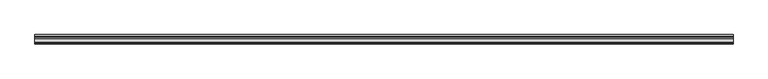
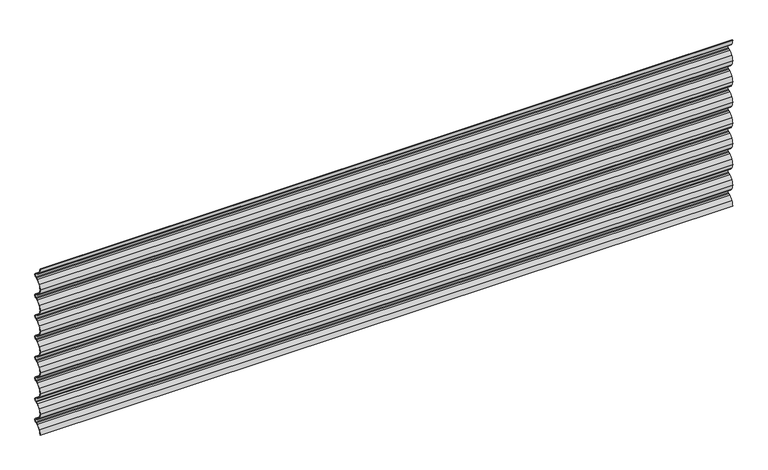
"""IFC4 building model written with IfcOpenShell, lengths in millimetres: plate geometry, Regolare Horizontal 712 : Regolare Horizontal 712."""

from ifc_helpers import new_model, si_unit, point, frame, frame_2d, origin, place, context, project, spatial, polyline, circle_curve, trimmed, segment, composite_curve, outline, extrude, source, transform, mapped, element, save


def plate_eb89862b(model_context):
    return source(origin(), model_context, "Body", "SweptSolid", [
        extrude(outline(composite_curve([segment(trimmed(circle_curve(frame_2d((38.4503244, 0.0)), 37.4503244), [point((6.5021495, 19.5407501))], [point((1.0, 0.0))], True, "CARTESIAN"), True, "CONTINUOUS"), segment(polyline([(1.0, 0.0), (0.0, 0.0)]), True, "CONTINUOUS"), segment(trimmed(circle_curve(frame_2d((38.4503244, 0.0)), 38.4503244), [point((0.0, 0.0))], [point((5.6490681, 20.062528))], False, "CARTESIAN"), True, "CONTINUOUS"), segment(trimmed(circle_curve(frame_2d((32.6206681, 3.5656452)), 31.6166783), [point((5.6490681, 20.062528))], [point((20.878867, 32.9211295))], False, "CARTESIAN"), True, "CONTINUOUS"), segment(polyline([(20.878867, 32.9211295), (28.0423924, 35.7903512), (31.4771017, 37.4367049)]), True, "CONTINUOUS"), segment(trimmed(circle_curve(frame_2d((28.0791236, 44.5257445)), 7.8613445), [point((31.4771017, 37.4367049))], [point((35.9404682, 44.5257445))], True, "CARTESIAN"), True, "CONTINUOUS"), segment(trimmed(circle_curve(frame_2d((28.0791236, 44.5257445)), 7.8613445), [point((35.9404682, 44.5257445))], [point((31.4771017, 51.6147842))], True, "CARTESIAN"), True, "CONTINUOUS"), segment(polyline([(31.4771017, 51.6147842), (28.0423924, 53.2611379), (20.878867, 56.1303596)]), True, "CONTINUOUS"), segment(trimmed(circle_curve(frame_2d((32.6206681, 85.4858438)), 31.6166783), [point((20.878867, 56.1303596))], [point((5.6490681, 68.9889611))], False, "CARTESIAN"), True, "CONTINUOUS"), segment(trimmed(circle_curve(frame_2d((38.4503244, 89.0514891)), 38.4503244), [point((5.6490681, 68.9889611))], [point((0.0, 89.0514891))], False, "CARTESIAN"), True, "CONTINUOUS"), segment(trimmed(circle_curve(frame_2d((38.4503244, 89.0514891)), 38.4503244), [point((0.0, 89.0514891))], [point((5.6490681, 109.1140171))], False, "CARTESIAN"), True, "CONTINUOUS"), segment(trimmed(circle_curve(frame_2d((32.6206681, 92.6171343)), 31.6166783), [point((5.6490681, 109.1140171))], [point((20.878867, 121.9726185))], False, "CARTESIAN"), True, "CONTINUOUS"), segment(polyline([(20.878867, 121.9726185), (28.0423924, 124.8418403), (31.4771017, 126.488194)]), True, "CONTINUOUS"), segment(trimmed(circle_curve(frame_2d((28.0791236, 133.5772336)), 7.8613445), [point((31.4771017, 126.488194))], [point((31.4771017, 140.6662733))], True, "CARTESIAN"), True, "CONTINUOUS"), segment(polyline([(31.4771017, 140.6662733), (28.0423924, 142.312627), (20.878867, 145.1818487)]), True, "CONTINUOUS"), segment(trimmed(circle_curve(frame_2d((32.6206681, 174.5373329)), 31.6166783), [point((20.878867, 145.1818487))], [point((5.6490681, 158.0404502))], False, "CARTESIAN"), True, "CONTINUOUS"), segment(trimmed(circle_curve(frame_2d((38.4503244, 178.1029782)), 38.4503244), [point((5.6490681, 158.0404502))], [point((0.0, 178.1029782))], False, "CARTESIAN"), True, "CONTINUOUS"), segment(trimmed(circle_curve(frame_2d((38.4503244, 178.1029782)), 38.4503244), [point((0.0, 178.1029782))], [point((5.6490681, 198.1655062))], False, "CARTESIAN"), True, "CONTINUOUS"), segment(trimmed(circle_curve(frame_2d((32.6206681, 181.6686234)), 31.6166783), [point((5.6490681, 198.1655062))], [point((20.878867, 211.0241076))], False, "CARTESIAN"), True, "CONTINUOUS"), segment(polyline([(20.878867, 211.0241076), (28.0423924, 213.8933293), (31.4771017, 215.5396831)]), True, "CONTINUOUS"), segment(trimmed(circle_curve(frame_2d((28.0791236, 222.6287227)), 7.8613445), [point((31.4771017, 215.5396831))], [point((31.4771017, 229.7177623))], True, "CARTESIAN"), True, "CONTINUOUS"), segment(polyline([(31.4771017, 229.7177623), (28.0423924, 231.3641161), (20.878867, 234.2333378)]), True, "CONTINUOUS"), segment(trimmed(circle_curve(frame_2d((32.6206681, 263.588822)), 31.6166783), [point((20.878867, 234.2333378))], [point((5.6490681, 247.0919392))], False, "CARTESIAN"), True, "CONTINUOUS"), segment(trimmed(circle_curve(frame_2d((38.4503244, 267.1544672)), 38.4503244), [point((5.6490681, 247.0919392))], [point((0.0, 267.1544672))], False, "CARTESIAN"), True, "CONTINUOUS"), segment(trimmed(circle_curve(frame_2d((38.4503244, 267.1544672)), 38.4503244), [point((0.0, 267.1544672))], [point((5.6490681, 287.2169952))], False, "CARTESIAN"), True, "CONTINUOUS"), segment(trimmed(circle_curve(frame_2d((32.6206681, 270.7201125)), 31.6166783), [point((5.6490681, 287.2169952))], [point((20.878867, 300.0755967))], False, "CARTESIAN"), True, "CONTINUOUS"), segment(polyline([(20.878867, 300.0755967), (28.0423924, 302.9448184), (31.4771017, 304.5911721)]), True, "CONTINUOUS"), segment(trimmed(circle_curve(frame_2d((28.0791236, 311.6802118)), 7.8613445), [point((31.4771017, 304.5911721))], [point((31.4771017, 318.7692514))], True, "CARTESIAN"), True, "CONTINUOUS"), segment(polyline([(31.4771017, 318.7692514), (28.0423924, 320.4156051), (20.878867, 323.2848269)]), True, "CONTINUOUS"), segment(trimmed(circle_curve(frame_2d((32.6206681, 352.6403111)), 31.6166783), [point((20.878867, 323.2848269))], [point((5.6490681, 336.1434283))], False, "CARTESIAN"), True, "CONTINUOUS"), segment(trimmed(circle_curve(frame_2d((38.4503244, 356.2059563)), 38.4503244), [point((5.6490681, 336.1434283))], [point((0.0, 356.2059563))], False, "CARTESIAN"), True, "CONTINUOUS"), segment(trimmed(circle_curve(frame_2d((38.4503244, 356.2059563)), 38.4503244), [point((0.0, 356.2059563))], [point((5.6490681, 376.2684843))], False, "CARTESIAN"), True, "CONTINUOUS"), segment(trimmed(circle_curve(frame_2d((32.6206681, 359.7716016)), 31.6166783), [point((5.6490681, 376.2684843))], [point((20.878867, 389.1270858))], False, "CARTESIAN"), True, "CONTINUOUS"), segment(polyline([(20.878867, 389.1270858), (28.0423924, 391.9963075), (31.4771017, 393.6426612)]), True, "CONTINUOUS"), segment(trimmed(circle_curve(frame_2d((28.0791236, 400.7317009)), 7.8613445), [point((31.4771017, 393.6426612))], [point((31.4771017, 407.8207405))], True, "CARTESIAN"), True, "CONTINUOUS"), segment(polyline([(31.4771017, 407.8207405), (28.0423924, 409.4670942), (20.878867, 412.3363159)]), True, "CONTINUOUS"), segment(trimmed(circle_curve(frame_2d((32.6206681, 441.6918002)), 31.6166783), [point((20.878867, 412.3363159))], [point((5.6490681, 425.1949174))], False, "CARTESIAN"), True, "CONTINUOUS"), segment(trimmed(circle_curve(frame_2d((38.4503244, 445.2574454)), 38.4503244), [point((5.6490681, 425.1949174))], [point((0.0, 445.2574454))], False, "CARTESIAN"), True, "CONTINUOUS"), segment(trimmed(circle_curve(frame_2d((38.4503244, 445.2574454)), 38.4503244), [point((0.0, 445.2574454))], [point((5.6490681, 465.3199734))], False, "CARTESIAN"), True, "CONTINUOUS"), segment(trimmed(circle_curve(frame_2d((32.6206681, 448.8230907)), 31.6166783), [point((5.6490681, 465.3199734))], [point((20.878867, 478.1785749))], False, "CARTESIAN"), True, "CONTINUOUS"), segment(polyline([(20.878867, 478.1785749), (28.0423924, 481.0477966), (31.4771017, 482.6941503)]), True, "CONTINUOUS"), segment(trimmed(circle_curve(frame_2d((28.0791236, 489.7831899)), 7.8613445), [point((31.4771017, 482.6941503))], [point((31.4771017, 496.8722296))], True, "CARTESIAN"), True, "CONTINUOUS"), segment(polyline([(31.4771017, 496.8722296), (28.0423924, 498.5185833), (20.878867, 501.387805)]), True, "CONTINUOUS"), segment(trimmed(circle_curve(frame_2d((32.6206681, 530.7432892)), 31.6166783), [point((20.878867, 501.387805))], [point((5.6490681, 514.2464065))], False, "CARTESIAN"), True, "CONTINUOUS"), segment(trimmed(circle_curve(frame_2d((38.4503244, 534.3089345)), 38.4503244), [point((5.6490681, 514.2464065))], [point((0.0, 534.3089345))], False, "CARTESIAN"), True, "CONTINUOUS"), segment(trimmed(circle_curve(frame_2d((38.4503244, 534.3089345)), 38.4503244), [point((0.0, 534.3089345))], [point((5.6490681, 554.3714625))], False, "CARTESIAN"), True, "CONTINUOUS"), segment(trimmed(circle_curve(frame_2d((32.6206681, 537.8745797)), 31.6166783), [point((5.6490681, 554.3714625))], [point((20.878867, 567.230064))], False, "CARTESIAN"), True, "CONTINUOUS"), segment(polyline([(20.878867, 567.230064), (28.0423924, 570.0992857), (31.4771017, 571.7456394)]), True, "CONTINUOUS"), segment(trimmed(circle_curve(frame_2d((28.0791236, 578.834679)), 7.8613445), [point((31.4771017, 571.7456394))], [point((31.4771017, 585.9237187))], True, "CARTESIAN"), True, "CONTINUOUS"), segment(polyline([(31.4771017, 585.9237187), (28.0423924, 587.5700724), (20.878867, 590.4392941)]), True, "CONTINUOUS"), segment(trimmed(circle_curve(frame_2d((32.6206681, 619.7947783)), 31.6166783), [point((20.878867, 590.4392941))], [point((5.6490681, 603.2978956))], False, "CARTESIAN"), True, "CONTINUOUS"), segment(trimmed(circle_curve(frame_2d((38.4503244, 623.3604236)), 38.4503244), [point((5.6490681, 603.2978956))], [point((0.0, 623.3604236))], False, "CARTESIAN"), True, "CONTINUOUS"), segment(trimmed(circle_curve(frame_2d((38.4503244, 623.3604236)), 38.4503244), [point((0.0, 623.3604236))], [point((5.6490681, 643.4229516))], False, "CARTESIAN"), True, "CONTINUOUS"), segment(trimmed(circle_curve(frame_2d((32.6206681, 626.9260688)), 31.6166783), [point((5.6490681, 643.4229516))], [point((20.878867, 656.281553))], False, "CARTESIAN"), True, "CONTINUOUS"), segment(polyline([(20.878867, 656.281553), (28.0423924, 659.1507748), (31.4771017, 660.7971285)]), True, "CONTINUOUS"), segment(trimmed(circle_curve(frame_2d((28.0791236, 667.8861681)), 7.8613445), [point((31.4771017, 660.7971285))], [point((31.4771017, 674.9752077))], True, "CARTESIAN"), True, "CONTINUOUS"), segment(polyline([(31.4771017, 674.9752077), (28.0423924, 676.6215615), (20.878867, 679.4907832)]), True, "CONTINUOUS"), segment(trimmed(circle_curve(frame_2d((32.6206681, 708.8462674)), 31.6166783), [point((20.878867, 679.4907832))], [point((5.6490681, 692.3493846))], False, "CARTESIAN"), True, "CONTINUOUS"), segment(trimmed(circle_curve(frame_2d((38.4503244, 712.4119126)), 38.4503244), [point((5.6490681, 692.3493846))], [point((0.0, 712.4119126))], False, "CARTESIAN"), True, "CONTINUOUS"), segment(polyline([(0.0, 712.4119126), (1.0, 712.4119126)]), True, "CONTINUOUS"), segment(trimmed(circle_curve(frame_2d((38.4503244, 712.4119126)), 37.4503244), [point((1.0, 712.4119126))], [point((6.5021495, 692.8711625))], True, "CARTESIAN"), True, "CONTINUOUS"), segment(trimmed(circle_curve(frame_2d((32.6206681, 708.8462674)), 30.6166783), [point((6.5021495, 692.8711625))], [point((21.2504634, 680.4191776))], True, "CARTESIAN"), True, "CONTINUOUS"), segment(polyline([(21.2504634, 680.4191776), (28.4448583, 677.5375917), (31.9093405, 675.8769669)]), True, "CONTINUOUS"), segment(trimmed(circle_curve(frame_2d((28.0791236, 667.8861681)), 8.8613445), [point((31.9093405, 675.8769669))], [point((31.9093405, 659.8953693))], False, "CARTESIAN"), True, "CONTINUOUS"), segment(polyline([(31.9093405, 659.8953693), (28.4448583, 658.2347446), (21.2504634, 655.3531587)]), True, "CONTINUOUS"), segment(trimmed(circle_curve(frame_2d((32.6206681, 626.9260688)), 30.6166783), [point((21.2504634, 655.3531587))], [point((6.5021495, 642.9011737))], True, "CARTESIAN"), True, "CONTINUOUS"), segment(trimmed(circle_curve(frame_2d((38.4503244, 623.3604236)), 37.4503244), [point((6.5021495, 642.9011737))], [point((1.0, 623.3604236))], True, "CARTESIAN"), True, "CONTINUOUS"), segment(trimmed(circle_curve(frame_2d((38.4503244, 623.3604236)), 37.4503244), [point((1.0, 623.3604236))], [point((6.5021495, 603.8196734))], True, "CARTESIAN"), True, "CONTINUOUS"), segment(trimmed(circle_curve(frame_2d((32.6206681, 619.7947783)), 30.6166783), [point((6.5021495, 603.8196734))], [point((21.2504634, 591.3676885))], True, "CARTESIAN"), True, "CONTINUOUS"), segment(polyline([(21.2504634, 591.3676885), (28.4448583, 588.4861026), (31.9093405, 586.8254778)]), True, "CONTINUOUS"), segment(trimmed(circle_curve(frame_2d((28.0791236, 578.834679)), 8.8613445), [point((31.9093405, 586.8254778))], [point((31.9093405, 570.8438802))], False, "CARTESIAN"), True, "CONTINUOUS"), segment(polyline([(31.9093405, 570.8438802), (28.4448583, 569.1832555), (21.2504634, 566.3016696)]), True, "CONTINUOUS"), segment(trimmed(circle_curve(frame_2d((32.6206681, 537.8745797)), 30.6166783), [point((21.2504634, 566.3016696))], [point((6.5021495, 553.8496846))], True, "CARTESIAN"), True, "CONTINUOUS"), segment(trimmed(circle_curve(frame_2d((38.4503244, 534.3089345)), 37.4503244), [point((6.5021495, 553.8496846))], [point((1.0, 534.3089345))], True, "CARTESIAN"), True, "CONTINUOUS"), segment(trimmed(circle_curve(frame_2d((38.4503244, 534.3089345)), 37.4503244), [point((1.0, 534.3089345))], [point((6.5021495, 514.7681843))], True, "CARTESIAN"), True, "CONTINUOUS"), segment(trimmed(circle_curve(frame_2d((32.6206681, 530.7432892)), 30.6166783), [point((6.5021495, 514.7681843))], [point((21.2504634, 502.3161994))], True, "CARTESIAN"), True, "CONTINUOUS"), segment(polyline([(21.2504634, 502.3161994), (28.4448583, 499.4346135), (31.9093405, 497.7739888)]), True, "CONTINUOUS"), segment(trimmed(circle_curve(frame_2d((28.0791236, 489.7831899)), 8.8613445), [point((31.9093405, 497.7739888))], [point((31.9093405, 481.7923911))], False, "CARTESIAN"), True, "CONTINUOUS"), segment(polyline([(31.9093405, 481.7923911), (28.4448583, 480.1317664), (21.2504634, 477.2501805)]), True, "CONTINUOUS"), segment(trimmed(circle_curve(frame_2d((32.6206681, 448.8230907)), 30.6166783), [point((21.2504634, 477.2501805))], [point((6.5021495, 464.7981955))], True, "CARTESIAN"), True, "CONTINUOUS"), segment(trimmed(circle_curve(frame_2d((38.4503244, 445.2574454)), 37.4503244), [point((6.5021495, 464.7981955))], [point((1.0, 445.2574454))], True, "CARTESIAN"), True, "CONTINUOUS"), segment(trimmed(circle_curve(frame_2d((38.4503244, 445.2574454)), 37.4503244), [point((1.0, 445.2574454))], [point((6.5021495, 425.7166953))], True, "CARTESIAN"), True, "CONTINUOUS"), segment(trimmed(circle_curve(frame_2d((32.6206681, 441.6918002)), 30.6166783), [point((6.5021495, 425.7166953))], [point((21.2504634, 413.2647103))], True, "CARTESIAN"), True, "CONTINUOUS"), segment(polyline([(21.2504634, 413.2647103), (28.4448583, 410.3831244), (31.9093405, 408.7224997)]), True, "CONTINUOUS"), segment(trimmed(circle_curve(frame_2d((28.0791236, 400.7317009)), 8.8613445), [point((31.9093405, 408.7224997))], [point((31.9093405, 392.740902))], False, "CARTESIAN"), True, "CONTINUOUS"), segment(polyline([(31.9093405, 392.740902), (28.4448583, 391.0802773), (21.2504634, 388.1986914)]), True, "CONTINUOUS"), segment(trimmed(circle_curve(frame_2d((32.6206681, 359.7716016)), 30.6166783), [point((21.2504634, 388.1986914))], [point((6.5021495, 375.7467065))], True, "CARTESIAN"), True, "CONTINUOUS"), segment(trimmed(circle_curve(frame_2d((38.4503244, 356.2059563)), 37.4503244), [point((6.5021495, 375.7467065))], [point((1.0, 356.2059563))], True, "CARTESIAN"), True, "CONTINUOUS"), segment(trimmed(circle_curve(frame_2d((38.4503244, 356.2059563)), 37.4503244), [point((1.0, 356.2059563))], [point((6.5021495, 336.6652062))], True, "CARTESIAN"), True, "CONTINUOUS"), segment(trimmed(circle_curve(frame_2d((32.6206681, 352.6403111)), 30.6166783), [point((6.5021495, 336.6652062))], [point((21.2504634, 324.2132212))], True, "CARTESIAN"), True, "CONTINUOUS"), segment(polyline([(21.2504634, 324.2132212), (28.4448583, 321.3316353), (31.9093405, 319.6710106)]), True, "CONTINUOUS"), segment(trimmed(circle_curve(frame_2d((28.0791236, 311.6802118)), 8.8613445), [point((31.9093405, 319.6710106))], [point((31.9093405, 303.689413))], False, "CARTESIAN"), True, "CONTINUOUS"), segment(polyline([(31.9093405, 303.689413), (28.4448583, 302.0287882), (21.2504634, 299.1472023)]), True, "CONTINUOUS"), segment(trimmed(circle_curve(frame_2d((32.6206681, 270.7201125)), 30.6166783), [point((21.2504634, 299.1472023))], [point((6.5021495, 286.6952174))], True, "CARTESIAN"), True, "CONTINUOUS"), segment(trimmed(circle_curve(frame_2d((38.4503244, 267.1544672)), 37.4503244), [point((6.5021495, 286.6952174))], [point((1.0, 267.1544672))], True, "CARTESIAN"), True, "CONTINUOUS"), segment(trimmed(circle_curve(frame_2d((38.4503244, 267.1544672)), 37.4503244), [point((1.0, 267.1544672))], [point((6.5021495, 247.6137171))], True, "CARTESIAN"), True, "CONTINUOUS"), segment(trimmed(circle_curve(frame_2d((32.6206681, 263.588822)), 30.6166783), [point((6.5021495, 247.6137171))], [point((21.2504634, 235.1617322))], True, "CARTESIAN"), True, "CONTINUOUS"), segment(polyline([(21.2504634, 235.1617322), (28.4448583, 232.2801463), (31.9093405, 230.6195215)]), True, "CONTINUOUS"), segment(trimmed(circle_curve(frame_2d((28.0791236, 222.6287227)), 8.8613445), [point((31.9093405, 230.6195215))], [point((31.9093405, 214.6379239))], False, "CARTESIAN"), True, "CONTINUOUS"), segment(polyline([(31.9093405, 214.6379239), (28.4448583, 212.9772992), (21.2504634, 210.0957133)]), True, "CONTINUOUS"), segment(trimmed(circle_curve(frame_2d((32.6206681, 181.6686234)), 30.6166783), [point((21.2504634, 210.0957133))], [point((6.5021495, 197.6437283))], True, "CARTESIAN"), True, "CONTINUOUS"), segment(trimmed(circle_curve(frame_2d((38.4503244, 178.1029782)), 37.4503244), [point((6.5021495, 197.6437283))], [point((1.0, 178.1029782))], True, "CARTESIAN"), True, "CONTINUOUS"), segment(trimmed(circle_curve(frame_2d((38.4503244, 178.1029782)), 37.4503244), [point((1.0, 178.1029782))], [point((6.5021495, 158.562228))], True, "CARTESIAN"), True, "CONTINUOUS"), segment(trimmed(circle_curve(frame_2d((32.6206681, 174.5373329)), 30.6166783), [point((6.5021495, 158.562228))], [point((21.2504634, 146.1102431))], True, "CARTESIAN"), True, "CONTINUOUS"), segment(polyline([(21.2504634, 146.1102431), (28.4448583, 143.2286572), (31.9093405, 141.5680324)]), True, "CONTINUOUS"), segment(trimmed(circle_curve(frame_2d((28.0791236, 133.5772336)), 8.8613445), [point((31.9093405, 141.5680324))], [point((31.9093405, 125.5864348))], False, "CARTESIAN"), True, "CONTINUOUS"), segment(polyline([(31.9093405, 125.5864348), (28.4448583, 123.9258101), (21.2504634, 121.0442242)]), True, "CONTINUOUS"), segment(trimmed(circle_curve(frame_2d((32.6206681, 92.6171343)), 30.6166783), [point((21.2504634, 121.0442242))], [point((6.5021495, 108.5922392))], True, "CARTESIAN"), True, "CONTINUOUS"), segment(trimmed(circle_curve(frame_2d((38.4503244, 89.0514891)), 37.4503244), [point((6.5021495, 108.5922392))], [point((1.0, 89.0514891))], True, "CARTESIAN"), True, "CONTINUOUS"), segment(trimmed(circle_curve(frame_2d((38.4503244, 89.0514891)), 37.4503244), [point((1.0, 89.0514891))], [point((6.5021495, 69.5107389))], True, "CARTESIAN"), True, "CONTINUOUS"), segment(trimmed(circle_curve(frame_2d((32.6206681, 85.4858438)), 30.6166783), [point((6.5021495, 69.5107389))], [point((21.2504634, 57.058754))], True, "CARTESIAN"), True, "CONTINUOUS"), segment(polyline([(21.2504634, 57.058754), (28.4448583, 54.1771681), (31.9093405, 52.5165434)]), True, "CONTINUOUS"), segment(trimmed(circle_curve(frame_2d((28.0791236, 44.5257445)), 8.8613445), [point((31.9093405, 52.5165434))], [point((36.9404682, 44.5257445))], False, "CARTESIAN"), True, "CONTINUOUS"), segment(trimmed(circle_curve(frame_2d((28.0791236, 44.5257445)), 8.8613445), [point((36.9404682, 44.5257445))], [point((31.9093405, 36.5349457))], False, "CARTESIAN"), True, "CONTINUOUS"), segment(polyline([(31.9093405, 36.5349457), (28.4448583, 34.874321), (21.2504634, 31.9927351)]), True, "CONTINUOUS"), segment(trimmed(circle_curve(frame_2d((32.6206681, 3.5656452)), 30.6166783), [point((21.2504634, 31.9927351))], [point((6.5021495, 19.5407501))], True, "CARTESIAN"), True, "CONTINUOUS")], self_intersect=False)), frame((-1407.0, 0.0, 0.0), z_axis=(1.0, 0.0, 0.0), x_axis=(0.0, 1.0, 0.0)), (0.0, 0.0, 1.0), 2814.0),
    ])


if __name__ == "__main__":
    model = new_model("IFC4")
    model_context = context("Model", 3, world=origin())
    ifc_project = project(units=[si_unit("LENGTHUNIT", "METRE", prefix="MILLI")], contexts=[model_context])
    site = spatial("IfcSite", under=ifc_project)
    building = spatial("IfcBuilding", under=site)
    placement = place(None, origin())
    plate_shape = plate_eb89862b(model_context)
    element("IfcPlate", 1, ObjectType="Regolare Horizontal 712 : Regolare Horizontal 712", at=placement, inside=building, context=model_context, shape_type="MappedRepresentation", body=[
        mapped(plate_shape, transform((0.0, 0.0, 0.0), x_axis=(1.0, 0.0, 0.0), y_axis=(0.0, 1.0, 0.0), z_axis=(0.0, 0.0, 1.0))),
    ])
    save(model, "model.ifc")
